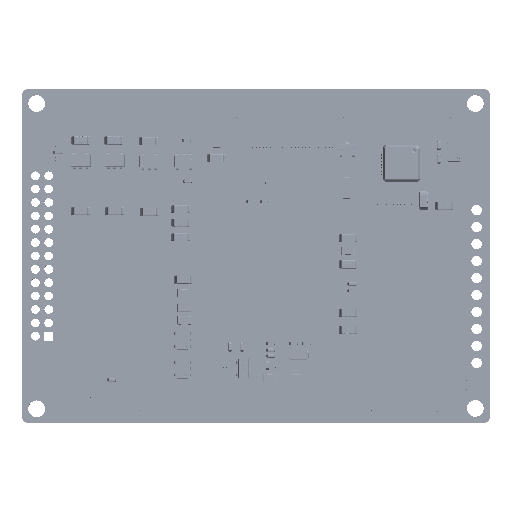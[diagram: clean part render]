
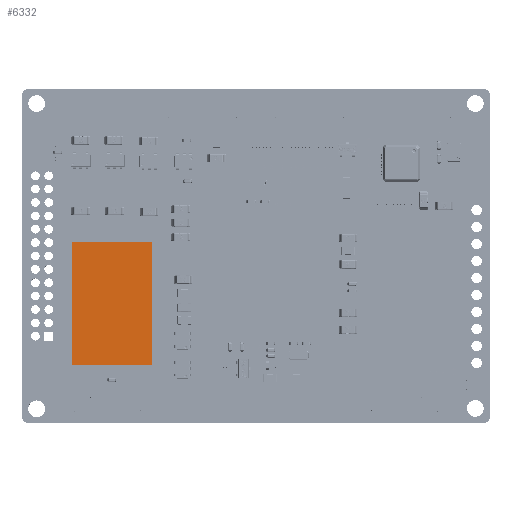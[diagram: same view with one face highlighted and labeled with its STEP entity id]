
A CAD part, top view. The second image highlights one B-rep face of the part: STEP entity #6332.
In plain terms, the highlighted planar face has unit normal (0, 0, 1).
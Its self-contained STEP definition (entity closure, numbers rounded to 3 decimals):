
#3017=DIRECTION('',(0.,1.,0.));
#3018=VECTOR('',#3017,18.4);
#3019=CARTESIAN_POINT('',(19.462,8.707,1.));
#3020=LINE('',#3019,#3018);
#3024=DIRECTION('',(1.,0.,0.));
#3025=VECTOR('',#3024,12.);
#3026=CARTESIAN_POINT('',(7.462,8.707,1.));
#3027=LINE('',#3026,#3025);
#3031=DIRECTION('',(0.,-1.,0.));
#3032=VECTOR('',#3031,18.4);
#3033=CARTESIAN_POINT('',(7.462,27.107,1.));
#3034=LINE('',#3033,#3032);
#3038=DIRECTION('',(-1.,0.,0.));
#3039=VECTOR('',#3038,12.);
#3040=CARTESIAN_POINT('',(19.462,27.107,1.));
#3041=LINE('',#3040,#3039);
#3277=CARTESIAN_POINT('',(19.462,8.707,1.));
#3278=CARTESIAN_POINT('',(19.462,27.107,1.));
#3279=VERTEX_POINT('',#3277);
#3280=VERTEX_POINT('',#3278);
#3281=CARTESIAN_POINT('',(7.462,27.107,1.));
#3282=VERTEX_POINT('',#3281);
#3283=CARTESIAN_POINT('',(7.462,8.707,1.));
#3284=VERTEX_POINT('',#3283);
#6321=CARTESIAN_POINT('',(0.,0.,1.));
#6322=DIRECTION('',(0.,0.,1.));
#6323=DIRECTION('',(-1.,0.,0.));
#6324=AXIS2_PLACEMENT_3D('',#6321,#6322,#6323);
#6325=PLANE('',#6324);
#6326=ORIENTED_EDGE('',*,*,#6273,.F.);
#6327=ORIENTED_EDGE('',*,*,#6288,.F.);
#6328=ORIENTED_EDGE('',*,*,#6302,.F.);
#6329=ORIENTED_EDGE('',*,*,#6315,.F.);
#6330=EDGE_LOOP('',(#6326,#6327,#6328,#6329));
#6331=FACE_OUTER_BOUND('',#6330,.F.);
#6273=EDGE_CURVE('',#3279,#3280,#3020,.T.);
#6288=EDGE_CURVE('',#3284,#3279,#3027,.T.);
#6302=EDGE_CURVE('',#3282,#3284,#3034,.T.);
#6315=EDGE_CURVE('',#3280,#3282,#3041,.T.);
#6332=ADVANCED_FACE('',(#6331),#6325,.T.);
